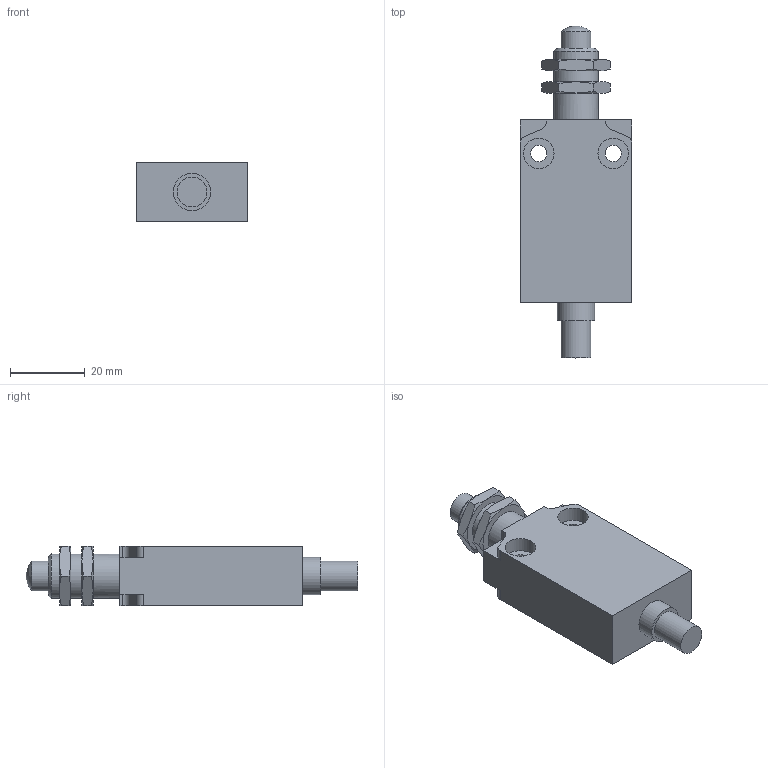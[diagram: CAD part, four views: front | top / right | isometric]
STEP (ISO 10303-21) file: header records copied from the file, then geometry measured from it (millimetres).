
FILE_DESCRIPTION(/* description */ (''),/* implementation_level */ '2;1');
FILE_NAME(/* name */ 'C:\Users\servizio.tecnico\Desktop\BERNSTEIN\3D\STP_EM1_G2101UC.stp',/* time_stamp */ '2020-06-26T10:05:52+02:00',/* author */ ('servizio.tecnico'),/* organization */ (''),/* preprocessor_version */ 'ST-DEVELOPER v17',/* originating_system */ 'Autodesk Inventor 2019',/* authorisation */ '');
FILE_SCHEMA (('AUTOMOTIVE_DESIGN { 1 0 10303 214 3 1 1 }'));
Length unit declared in the file: millimetre
Products named in the file (3): STP_EM1_G21UC; EM1G21; Product
Assembly tree (2 placements, depth 3):
  STP_EM1_G21UC
    EM1G21
      Product
Bounding box: 30 x 89.1 x 16 mm (x, y, z)
Volume: 25811.1 mm3; surface area: 9965.2 mm2
Topology: 5 solids, 5 shells, 116 faces, 273 edges, 174 vertices
Faces by surface type: plane 57, cylinder 29, cone 29, sphere 1
Full cylindrical faces by diameter (mm): 4.4 x2, 7.95 x1, 8 x1, 8.05 x1, 8.2 x4, 10 x1, 12 x3
Entity records: 3459 total; most frequent: CARTESIAN_POINT 679, DIRECTION 556, ORIENTED_EDGE 544, EDGE_CURVE 272, AXIS2_PLACEMENT_3D 219, VERTEX_POINT 174, EDGE_LOOP 132, LINE 118
